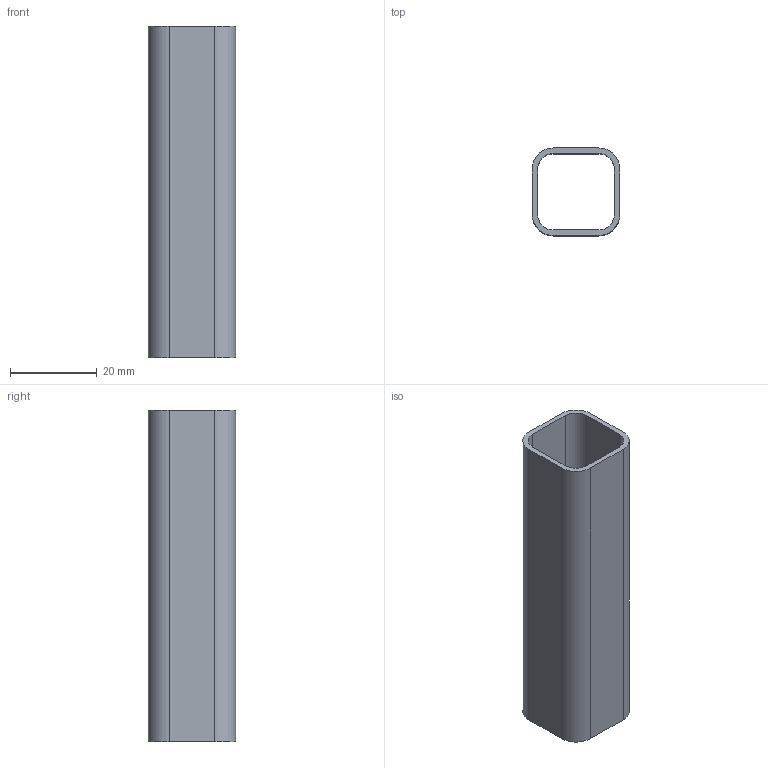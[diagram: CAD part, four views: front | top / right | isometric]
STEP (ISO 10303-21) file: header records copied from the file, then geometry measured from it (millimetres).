
FILE_DESCRIPTION (( 'STEP AP214' ), '1' );
FILE_NAME ('DRP-002-0000-03.STEP', '2010-06-24T16:30:26', ( '' ), ( '' ), 'SwSTEP 2.0', 'SolidWorks 2010', '' );
FILE_SCHEMA (( 'AUTOMOTIVE_DESIGN' ));
Length unit declared in the file: inch
Products named in the file (1): DRP-002-0000-03
Bounding box: 20.14 x 20.14 x 76.2 mm (x, y, z)
Volume: 6606.4 mm3; surface area: 10577.2 mm2
Topology: 1 solids, 1 shells, 18 faces, 48 edges, 32 vertices
Faces by surface type: plane 10, cylinder 8
Entity records: 612 total; most frequent: DIRECTION 102, CARTESIAN_POINT 99, ORIENTED_EDGE 96, EDGE_CURVE 48, AXIS2_PLACEMENT_3D 35, VECTOR 32, LINE 32, VERTEX_POINT 32
